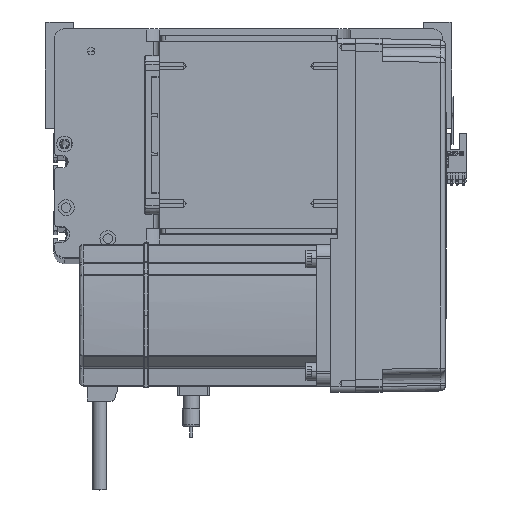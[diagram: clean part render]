
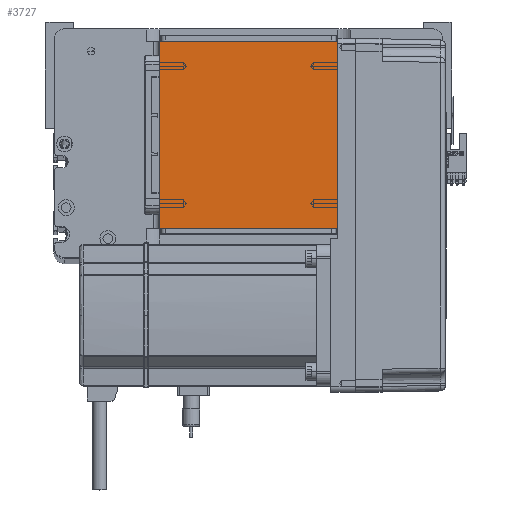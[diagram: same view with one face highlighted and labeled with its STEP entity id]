
A CAD part, top view. The second image highlights one B-rep face of the part: STEP entity #3727.
In plain terms, the highlighted planar face has unit normal (0, 0, 1).
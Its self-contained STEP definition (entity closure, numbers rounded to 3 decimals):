
#466 = DIRECTION ( 'NONE',  ( -1., 0., 0. ) ) ;
#834 = VERTEX_POINT ( 'NONE', #47299 ) ;
#3714 = PLANE ( 'NONE',  #14005 ) ;
#3727 = ADVANCED_FACE ( 'NONE', ( #45470 ), #3714, .T. ) ;
#6375 = EDGE_CURVE ( 'NONE', #834, #27611, #15361, .T. ) ;
#7341 = EDGE_CURVE ( 'NONE', #27414, #834, #15949, .T. ) ;
#9178 = CARTESIAN_POINT ( 'NONE',  ( -50.5, 16., 115. ) ) ;
#11588 = ORIENTED_EDGE ( 'NONE', *, *, #33047, .T. ) ;
#11801 = VECTOR ( 'NONE', #466, 1000. ) ;
#11805 = VERTEX_POINT ( 'NONE', #35721 ) ;
#13365 = CARTESIAN_POINT ( 'NONE',  ( -50.5, 122., 115. ) ) ;
#14005 = AXIS2_PLACEMENT_3D ( 'NONE', #16242, #49078, #24325 ) ;
#15361 = LINE ( 'NONE', #28429, #26395 ) ;
#15949 = LINE ( 'NONE', #20935, #44406 ) ;
#16242 = CARTESIAN_POINT ( 'NONE',  ( 0., 0., 115. ) ) ;
#18592 = LINE ( 'NONE', #28494, #26954 ) ;
#20612 = EDGE_LOOP ( 'NONE', ( #11588, #35097, #53408, #52919 ) ) ;
#20935 = CARTESIAN_POINT ( 'NONE',  ( -50.5, 16., 115. ) ) ;
#24325 = DIRECTION ( 'NONE',  ( 1., 0., 0. ) ) ;
#25372 = LINE ( 'NONE', #13365, #11801 ) ;
#26395 = VECTOR ( 'NONE', #44896, 1000. ) ;
#26954 = VECTOR ( 'NONE', #33198, 1000. ) ;
#27414 = VERTEX_POINT ( 'NONE', #9178 ) ;
#27418 = CARTESIAN_POINT ( 'NONE',  ( 50.5, 122., 115. ) ) ;
#27611 = VERTEX_POINT ( 'NONE', #27418 ) ;
#28429 = CARTESIAN_POINT ( 'NONE',  ( 50.5, 122., 115. ) ) ;
#28494 = CARTESIAN_POINT ( 'NONE',  ( -50.5, 122., 115. ) ) ;
#33047 = EDGE_CURVE ( 'NONE', #11805, #27414, #18592, .T. ) ;
#33198 = DIRECTION ( 'NONE',  ( 0., -1., 0. ) ) ;
#35097 = ORIENTED_EDGE ( 'NONE', *, *, #7341, .T. ) ;
#35721 = CARTESIAN_POINT ( 'NONE',  ( -50.5, 122., 115. ) ) ;
#39614 = EDGE_CURVE ( 'NONE', #27611, #11805, #25372, .T. ) ;
#44406 = VECTOR ( 'NONE', #49261, 1000. ) ;
#44896 = DIRECTION ( 'NONE',  ( 0., 1., 0. ) ) ;
#45470 = FACE_OUTER_BOUND ( 'NONE', #20612, .T. ) ;
#47299 = CARTESIAN_POINT ( 'NONE',  ( 50.5, 16., 115. ) ) ;
#49078 = DIRECTION ( 'NONE',  ( 0., 0., 1. ) ) ;
#49261 = DIRECTION ( 'NONE',  ( 1., 0., 0. ) ) ;
#52919 = ORIENTED_EDGE ( 'NONE', *, *, #39614, .T. ) ;
#53408 = ORIENTED_EDGE ( 'NONE', *, *, #6375, .T. ) ;
